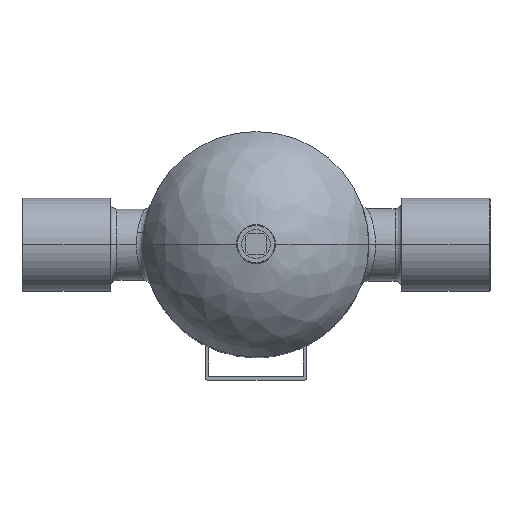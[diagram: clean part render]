
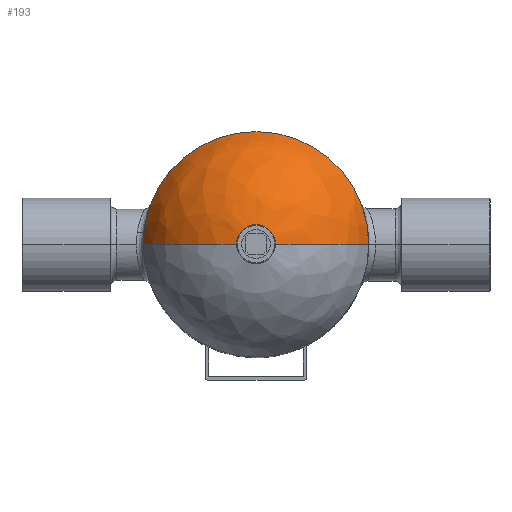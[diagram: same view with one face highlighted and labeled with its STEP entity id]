
A CAD part, top view. The second image highlights one B-rep face of the part: STEP entity #193.
In plain terms, the highlighted free-form (B-spline) face has degree [2, 2] with [3, 5] control points.
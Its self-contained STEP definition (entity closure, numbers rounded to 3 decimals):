
#193=ADVANCED_FACE('',(#1092),#1091,.T.);
#1091=( BOUNDED_SURFACE() B_SPLINE_SURFACE( 2,2,((#2628,#2629,#2630,#2631,#2632),(#2633,#2634,#2635,#2636,#2637),(#2638,#2639,#2640,#2641,#2642)), .UNSPECIFIED.,.F.,.F.,.F.) B_SPLINE_SURFACE_WITH_KNOTS((3,3),(3,2,3),(-1.391,-0.386),(0.,1.571,3.142), .UNSPECIFIED. ) GEOMETRIC_REPRESENTATION_ITEM() RATIONAL_B_SPLINE_SURFACE(((1.,0.707,1.,0.707,1.),(0.877,0.62,0.877,0.62,0.877),(1.,0.707,1.,0.707,1.))) REPRESENTATION_ITEM('') SURFACE() );
#1092=FACE_OUTER_BOUND('',#2643,.T.);
#2628=CARTESIAN_POINT('',(11.5,0.,215.827));
#2629=CARTESIAN_POINT('',(11.5,11.5,215.827));
#2630=CARTESIAN_POINT('',(0.,11.5,215.827));
#2631=CARTESIAN_POINT('',(-11.5,11.5,215.827));
#2632=CARTESIAN_POINT('',(-11.5,0.,215.827));
#2633=CARTESIAN_POINT('',(51.267,0.,208.58));
#2634=CARTESIAN_POINT('',(51.267,51.267,208.58));
#2635=CARTESIAN_POINT('',(0.,51.267,208.58));
#2636=CARTESIAN_POINT('',(-51.267,51.267,208.58));
#2637=CARTESIAN_POINT('',(-51.267,0.,208.58));
#2638=CARTESIAN_POINT('',(66.5,0.,171.139));
#2639=CARTESIAN_POINT('',(66.5,66.5,171.139));
#2640=CARTESIAN_POINT('',(0.,66.5,171.139));
#2641=CARTESIAN_POINT('',(-66.5,66.5,171.139));
#2642=CARTESIAN_POINT('',(-66.5,0.,171.139));
#2643=EDGE_LOOP('',(#3826,#3827,#3828,#3829,#3830));
#3826=ORIENTED_EDGE('',*,*,#4336,.T.);
#3827=ORIENTED_EDGE('',*,*,#4337,.T.);
#3828=ORIENTED_EDGE('',*,*,#4310,.F.);
#3829=ORIENTED_EDGE('',*,*,#4303,.F.);
#3830=ORIENTED_EDGE('',*,*,#4338,.F.);
#4303=EDGE_CURVE('',#5865,#5872,#5873,.T.);
#4310=EDGE_CURVE('',#5872,#5919,#5920,.T.);
#4336=EDGE_CURVE('',#6092,#6093,#6094,.T.);
#4337=EDGE_CURVE('',#6093,#5919,#6100,.T.);
#4338=EDGE_CURVE('',#6092,#5865,#6106,.T.);
#5865=VERTEX_POINT('',#7930);
#5872=VERTEX_POINT('',#7935);
#5873=CIRCLE('',#7939,66.5);
#5919=VERTEX_POINT('',#7962);
#5920=CIRCLE('',#7966,66.5);
#6092=VERTEX_POINT('',#8301);
#6093=VERTEX_POINT('',#8302);
#6094=CIRCLE('',#8306,11.5);
#6100=(BOUNDED_CURVE() B_SPLINE_CURVE(2,(#8307,#8308,#8309),.UNSPECIFIED.,.F.,.F.) B_SPLINE_CURVE_WITH_KNOTS((3,3),(-1.391,-0.386),.UNSPECIFIED.) CURVE() GEOMETRIC_REPRESENTATION_ITEM() RATIONAL_B_SPLINE_CURVE((1.,0.877,1.)) REPRESENTATION_ITEM('') );
#6106=(BOUNDED_CURVE() B_SPLINE_CURVE(2,(#8310,#8311,#8312),.UNSPECIFIED.,.F.,.F.) B_SPLINE_CURVE_WITH_KNOTS((3,3),(-1.391,-0.386),.UNSPECIFIED.) CURVE() GEOMETRIC_REPRESENTATION_ITEM() RATIONAL_B_SPLINE_CURVE((1.,0.877,1.)) REPRESENTATION_ITEM('') );
#7930=CARTESIAN_POINT('',(-66.5,0.,171.139));
#7935=CARTESIAN_POINT('',(0.,66.5,171.139));
#7936=CARTESIAN_POINT('',(0.,0.,171.139));
#7937=DIRECTION('',(0.,0.,-1.));
#7938=DIRECTION('',(-1.,0.,0.));
#7939=AXIS2_PLACEMENT_3D('',#7936,#7937,#7938);
#7962=CARTESIAN_POINT('',(66.5,0.,171.139));
#7963=CARTESIAN_POINT('',(0.,0.,171.139));
#7964=DIRECTION('',(0.,0.,-1.));
#7965=DIRECTION('',(-1.,0.,0.));
#7966=AXIS2_PLACEMENT_3D('',#7963,#7964,#7965);
#8301=CARTESIAN_POINT('',(-11.5,0.,215.827));
#8302=CARTESIAN_POINT('',(11.5,0.,215.827));
#8303=CARTESIAN_POINT('',(0.,0.,215.827));
#8304=DIRECTION('',(0.,0.,-1.));
#8305=DIRECTION('',(-1.,0.,0.));
#8306=AXIS2_PLACEMENT_3D('',#8303,#8304,#8305);
#8307=CARTESIAN_POINT('',(11.5,0.,215.827));
#8308=CARTESIAN_POINT('',(51.267,0.,208.58));
#8309=CARTESIAN_POINT('',(66.5,0.,171.139));
#8310=CARTESIAN_POINT('',(-11.5,0.,215.827));
#8311=CARTESIAN_POINT('',(-51.267,0.,208.58));
#8312=CARTESIAN_POINT('',(-66.5,0.,171.139));
